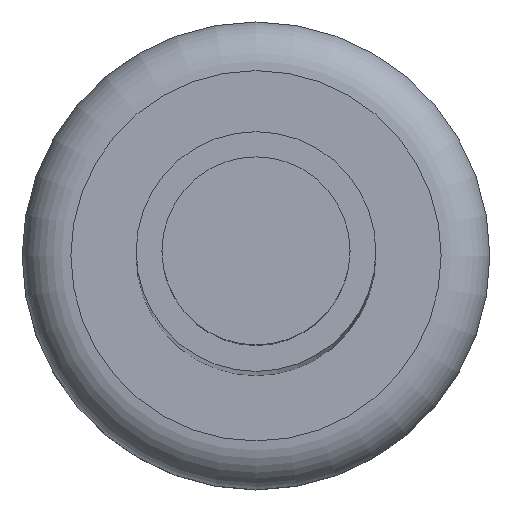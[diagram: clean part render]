
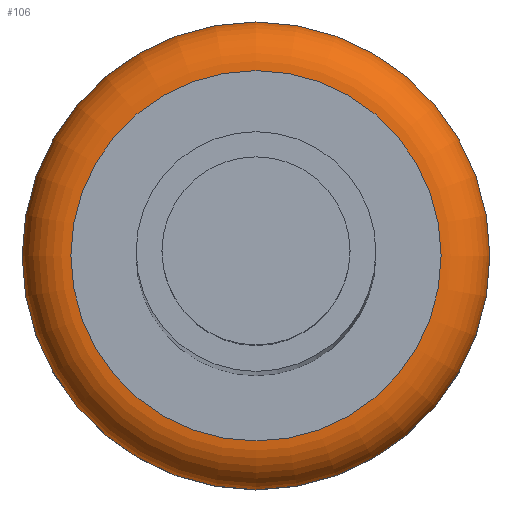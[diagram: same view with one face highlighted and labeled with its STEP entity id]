
A CAD part, top view. The second image highlights one B-rep face of the part: STEP entity #106.
In plain terms, the highlighted toroidal (fillet/blend) face has major radius 1.9 mm and minor radius 0.5 mm.
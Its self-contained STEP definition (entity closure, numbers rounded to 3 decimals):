
#35=TOROIDAL_SURFACE('',#280,1.9,0.5);
#106=ADVANCED_FACE('',(#124,#125),#35,.T.);
#124=FACE_BOUND('',#148,.T.);
#125=FACE_BOUND('',#149,.T.);
#148=EDGE_LOOP('',(#200));
#149=EDGE_LOOP('',(#201));
#200=ORIENTED_EDGE('',*,*,#225,.F.);
#201=ORIENTED_EDGE('',*,*,#226,.F.);
#205=VERTEX_POINT('',#359);
#206=VERTEX_POINT('',#362);
#225=EDGE_CURVE('',#205,#205,#251,.T.);
#226=EDGE_CURVE('',#206,#206,#252,.T.);
#251=CIRCLE('',#262,2.4);
#252=CIRCLE('',#264,1.9);
#262=AXIS2_PLACEMENT_3D('',#358,#293,#294);
#264=AXIS2_PLACEMENT_3D('',#361,#297,#298);
#280=AXIS2_PLACEMENT_3D('',#411,#347,#348);
#293=DIRECTION('',(0.,0.,-1.));
#294=DIRECTION('',(1.,0.,0.));
#297=DIRECTION('',(0.,0.,1.));
#298=DIRECTION('',(1.,0.,0.));
#347=DIRECTION('',(0.,0.,1.));
#348=DIRECTION('',(1.,0.,0.));
#358=CARTESIAN_POINT('',(-53.125,0.,1.95));
#359=CARTESIAN_POINT('',(-50.725,0.,1.95));
#361=CARTESIAN_POINT('',(-53.125,0.,2.45));
#362=CARTESIAN_POINT('',(-51.225,0.,2.45));
#411=CARTESIAN_POINT('',(-53.125,0.,1.95));
